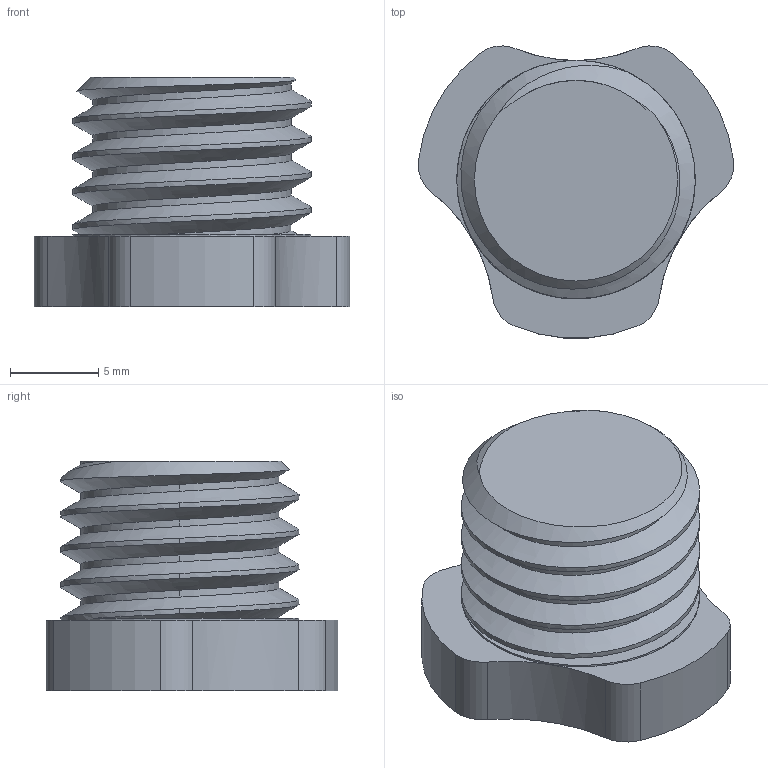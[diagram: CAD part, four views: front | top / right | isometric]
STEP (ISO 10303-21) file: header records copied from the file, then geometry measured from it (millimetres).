
FILE_DESCRIPTION(/* description */ ('','CAx-IF Rec.Pracs.---Representation and Presentation of Product Manufacturing Information (PMI)---4.0---2014-10-13'),/* implementation_level */ '2;1');
FILE_NAME(/* name */ 'Goews Bolt 18mm Head 9mm Length Revised Standard.step',/* time_stamp */ '2025-01-07T10:20:59-05:00',/* author */ (''),/* organization */ (''),/* preprocessor_version */ 'ST-DEVELOPER v20',/* originating_system */ 'Autodesk Translation Framework v13.20.0.188',/* authorisation */ '');
FILE_SCHEMA (('AP242_MANAGED_MODEL_BASED_3D_ENGINEERING_MIM_LF { 1 0 10303 442 1 1 4 }'));
Length unit declared in the file: millimetre
Products named in the file (2): Goews Bolt Parametric 18mm Head Under Shelf; Bolt
Assembly tree (1 placements, depth 2):
  Goews Bolt Parametric 18mm Head Under Shelf
    Bolt
Bounding box: 17.89 x 16.56 x 13 mm (x, y, z)
Volume: 1709.9 mm3; surface area: 1297.5 mm2
Topology: 1 solids, 1 shells, 44 faces, 114 edges, 73 vertices
Faces by surface type: cylinder 22, plane 19, bspline 2, cone 1
Full cylindrical faces by diameter (mm): 11.234 x3, 13.522 x4
Entity records: 2939 total; most frequent: CARTESIAN_POINT 1835, ORIENTED_EDGE 228, DIRECTION 215, EDGE_CURVE 114, AXIS2_PLACEMENT_3D 82, VERTEX_POINT 73, LINE 51, VECTOR 51
